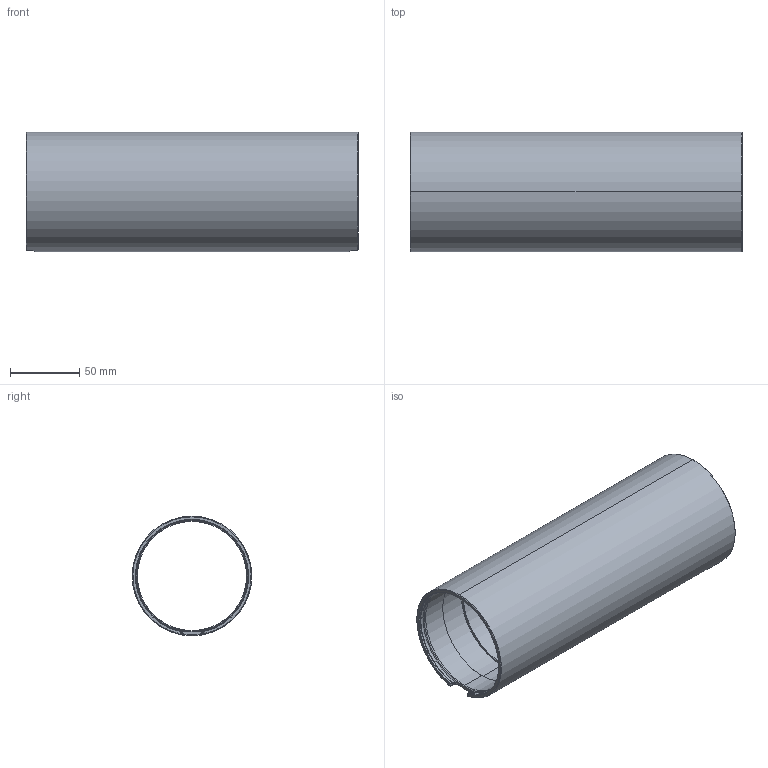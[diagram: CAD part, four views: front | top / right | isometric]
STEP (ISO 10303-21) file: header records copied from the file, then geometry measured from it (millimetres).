
FILE_DESCRIPTION (( 'STEP AP214' ), '1' );
FILE_NAME ('BR-100611-240_RevC.STEP', '2025-03-03T21:18:22', ( '' ), ( '' ), 'SwSTEP 2.0', 'SolidWorks 2024', '' );
FILE_SCHEMA (( 'AUTOMOTIVE_DESIGN' ));
Length unit declared in the file: millimetre
Products named in the file (1): BR-100611-240_RevC
Bounding box: 240 x 86.48 x 86.5 mm (x, y, z)
Volume: 207066.9 mm3; surface area: 127804.7 mm2
Topology: 1 solids, 1 shells, 96 faces, 244 edges, 152 vertices
Faces by surface type: cylinder 26, bspline 24, cone 18, plane 16, torus 12
Entity records: 5958 total; most frequent: CARTESIAN_POINT 3876, ORIENTED_EDGE 488, DIRECTION 346, EDGE_CURVE 244, VERTEX_POINT 152, AXIS2_PLACEMENT_3D 149, B_SPLINE_CURVE_WITH_KNOTS 116, EDGE_LOOP 100
